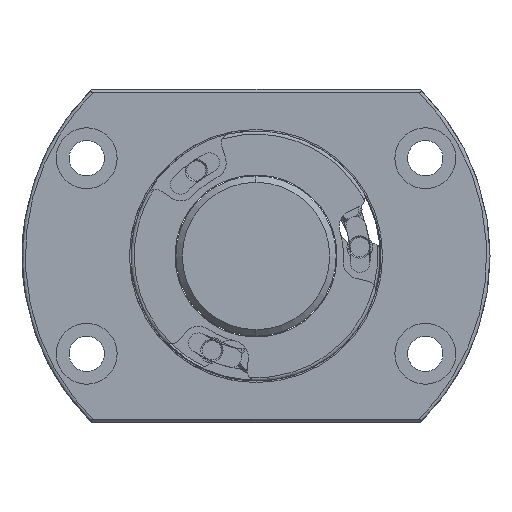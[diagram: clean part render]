
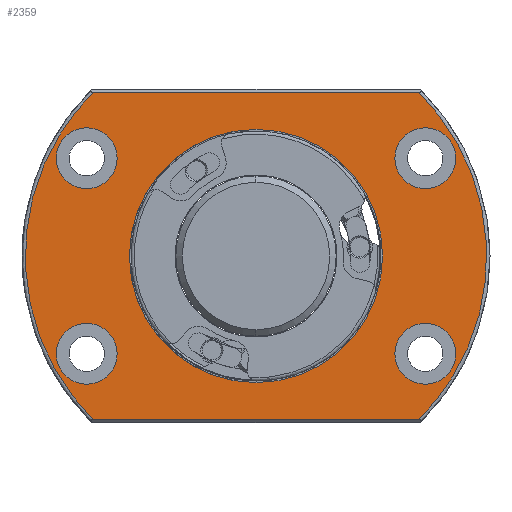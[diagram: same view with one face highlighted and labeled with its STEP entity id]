
A CAD part, left-side view. The second image highlights one B-rep face of the part: STEP entity #2359.
In plain terms, the highlighted planar face has unit normal (-1, 0, 0).
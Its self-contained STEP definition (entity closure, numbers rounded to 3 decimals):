
#74 = EDGE_CURVE ( 'NONE', #7313, #2662, #2654, .T. ) ;
#124 = EDGE_CURVE ( 'NONE', #5215, #7070, #1779, .T. ) ;
#129 = EDGE_LOOP ( 'NONE', ( #6904, #6137 ) ) ;
#179 = EDGE_LOOP ( 'NONE', ( #5307, #3958 ) ) ;
#189 = AXIS2_PLACEMENT_3D ( 'NONE', #7198, #2239, #4092 ) ;
#190 = VERTEX_POINT ( 'NONE', #4994 ) ;
#200 = LINE ( 'NONE', #3746, #2045 ) ;
#265 = CARTESIAN_POINT ( 'NONE',  ( 0., 40.39, 10.573 ) ) ;
#405 = CARTESIAN_POINT ( 'NONE',  ( 0., -26.414, -15.25 ) ) ;
#505 = EDGE_CURVE ( 'NONE', #7940, #2307, #4324, .T. ) ;
#527 = ORIENTED_EDGE ( 'NONE', *, *, #5287, .F. ) ;
#534 = EDGE_CURVE ( 'NONE', #7070, #5215, #5986, .T. ) ;
#570 = CARTESIAN_POINT ( 'NONE',  ( 0., -40.39, -10.573 ) ) ;
#661 = CARTESIAN_POINT ( 'NONE',  ( 0., -26.414, 10.5 ) ) ;
#663 = AXIS2_PLACEMENT_3D ( 'NONE', #5148, #1396, #5774 ) ;
#682 = CARTESIAN_POINT ( 'NONE',  ( 0., 0., 19.75 ) ) ;
#684 = CIRCLE ( 'NONE', #7469, 19.75 ) ;
#886 = CARTESIAN_POINT ( 'NONE',  ( 0., 25.412, 25.5 ) ) ;
#1012 = CARTESIAN_POINT ( 'NONE',  ( 0., 25.412, 25.5 ) ) ;
#1099 =( BOUNDED_CURVE ( )  B_SPLINE_CURVE ( 3, ( #7747, #5920, #265, #886 ),
 .UNSPECIFIED., .F., .T. ) 
 B_SPLINE_CURVE_WITH_KNOTS ( ( 4, 4 ),
 ( 0., 1. ),
 .UNSPECIFIED. ) 
 CURVE ( )  GEOMETRIC_REPRESENTATION_ITEM ( )  RATIONAL_B_SPLINE_CURVE ( ( 1., 0.804, 0.804, 1. ) ) 
 REPRESENTATION_ITEM ( '' )  );
#1117 = DIRECTION ( 'NONE',  ( -1., 0., 0. ) ) ;
#1163 = EDGE_CURVE ( 'NONE', #8084, #7940, #7732, .T. ) ;
#1169 = CARTESIAN_POINT ( 'NONE',  ( 0., -40.39, 10.573 ) ) ;
#1221 = VERTEX_POINT ( 'NONE', #5000 ) ;
#1335 = DIRECTION ( 'NONE',  ( 0., 0., 1. ) ) ;
#1374 = CARTESIAN_POINT ( 'NONE',  ( 0., 25.412, -25.5 ) ) ;
#1396 = DIRECTION ( 'NONE',  ( 1., 0., 0. ) ) ;
#1451 = ORIENTED_EDGE ( 'NONE', *, *, #8046, .T. ) ;
#1499 = CARTESIAN_POINT ( 'NONE',  ( 0., 0., 0. ) ) ;
#1555 = CARTESIAN_POINT ( 'NONE',  ( 0., -26.414, 15.25 ) ) ;
#1583 = ORIENTED_EDGE ( 'NONE', *, *, #1163, .F. ) ;
#1584 = DIRECTION ( 'NONE',  ( 1., 0., 0. ) ) ;
#1647 = DIRECTION ( 'NONE',  ( 0., 0., 1. ) ) ;
#1779 = CIRCLE ( 'NONE', #3870, 4.75 ) ;
#1859 = CIRCLE ( 'NONE', #7147, 4.75 ) ;
#1915 = ORIENTED_EDGE ( 'NONE', *, *, #5372, .T. ) ;
#2045 = VECTOR ( 'NONE', #3130, 1000. ) ;
#2063 = FACE_BOUND ( 'NONE', #129, .T. ) ;
#2160 = AXIS2_PLACEMENT_3D ( 'NONE', #1499, #3937, #4562 ) ;
#2183 = EDGE_CURVE ( 'NONE', #2307, #3557, #1099, .T. ) ;
#2229 = DIRECTION ( 'NONE',  ( 0., 0., 1. ) ) ;
#2239 = DIRECTION ( 'NONE',  ( 1., 0., 0. ) ) ;
#2307 = VERTEX_POINT ( 'NONE', #1374 ) ;
#2356 = CARTESIAN_POINT ( 'NONE',  ( 0., 26.414, 15.25 ) ) ;
#2359 = ADVANCED_FACE ( 'NONE', ( #6095, #5803, #2751, #2063, #7832, #4718 ), #3993, .F. ) ;
#2408 = DIRECTION ( 'NONE',  ( 0., 0., 1. ) ) ;
#2654 = CIRCLE ( 'NONE', #6806, 19.75 ) ;
#2662 = VERTEX_POINT ( 'NONE', #682 ) ;
#2693 = CARTESIAN_POINT ( 'NONE',  ( 0., 0., -25.5 ) ) ;
#2751 = FACE_BOUND ( 'NONE', #5599, .T. ) ;
#2809 = ORIENTED_EDGE ( 'NONE', *, *, #2183, .F. ) ;
#2843 = VERTEX_POINT ( 'NONE', #6492 ) ;
#2941 = EDGE_CURVE ( 'NONE', #2843, #4026, #3649, .T. ) ;
#2965 = DIRECTION ( 'NONE',  ( 1., 0., 0. ) ) ;
#2987 = DIRECTION ( 'NONE',  ( 1., 0., 0. ) ) ;
#3018 = AXIS2_PLACEMENT_3D ( 'NONE', #6776, #2965, #7951 ) ;
#3130 = DIRECTION ( 'NONE',  ( 0., -1., 0. ) ) ;
#3159 = CARTESIAN_POINT ( 'NONE',  ( 0., 26.414, -15.25 ) ) ;
#3171 = CIRCLE ( 'NONE', #189, 4.75 ) ;
#3557 = VERTEX_POINT ( 'NONE', #1012 ) ;
#3649 = CIRCLE ( 'NONE', #6743, 4.75 ) ;
#3678 = EDGE_LOOP ( 'NONE', ( #4343, #1915 ) ) ;
#3679 = EDGE_CURVE ( 'NONE', #3557, #8084, #200, .T. ) ;
#3746 = CARTESIAN_POINT ( 'NONE',  ( 0., 0., 25.5 ) ) ;
#3870 = AXIS2_PLACEMENT_3D ( 'NONE', #1555, #1584, #7212 ) ;
#3904 = CARTESIAN_POINT ( 'NONE',  ( 0., -26.414, -20. ) ) ;
#3937 = DIRECTION ( 'NONE',  ( 1., 0., 0. ) ) ;
#3958 = ORIENTED_EDGE ( 'NONE', *, *, #2941, .T. ) ;
#3993 = PLANE ( 'NONE',  #2160 ) ;
#4026 = VERTEX_POINT ( 'NONE', #6684 ) ;
#4092 = DIRECTION ( 'NONE',  ( 0., 0., 1. ) ) ;
#4312 = CARTESIAN_POINT ( 'NONE',  ( 0., 0., 0. ) ) ;
#4324 = LINE ( 'NONE', #2693, #5513 ) ;
#4343 = ORIENTED_EDGE ( 'NONE', *, *, #4614, .T. ) ;
#4436 = EDGE_LOOP ( 'NONE', ( #527, #5079 ) ) ;
#4562 = DIRECTION ( 'NONE',  ( 0., 0., -1. ) ) ;
#4614 = EDGE_CURVE ( 'NONE', #190, #7687, #1859, .T. ) ;
#4659 = VERTEX_POINT ( 'NONE', #5398 ) ;
#4718 = FACE_BOUND ( 'NONE', #4436, .T. ) ;
#4920 = AXIS2_PLACEMENT_3D ( 'NONE', #4942, #6177, #2408 ) ;
#4942 = CARTESIAN_POINT ( 'NONE',  ( 0., 26.414, 15.25 ) ) ;
#4994 = CARTESIAN_POINT ( 'NONE',  ( 0., -26.414, -10.5 ) ) ;
#5000 = CARTESIAN_POINT ( 'NONE',  ( 0., 26.414, 10.5 ) ) ;
#5079 = ORIENTED_EDGE ( 'NONE', *, *, #74, .F. ) ;
#5148 = CARTESIAN_POINT ( 'NONE',  ( 0., -26.414, 15.25 ) ) ;
#5215 = VERTEX_POINT ( 'NONE', #6010 ) ;
#5235 = CIRCLE ( 'NONE', #4920, 4.75 ) ;
#5282 = CARTESIAN_POINT ( 'NONE',  ( 0., 0., 0. ) ) ;
#5287 = EDGE_CURVE ( 'NONE', #2662, #7313, #684, .T. ) ;
#5307 = ORIENTED_EDGE ( 'NONE', *, *, #7907, .T. ) ;
#5372 = EDGE_CURVE ( 'NONE', #7687, #190, #6172, .T. ) ;
#5398 = CARTESIAN_POINT ( 'NONE',  ( 0., 26.414, 20. ) ) ;
#5513 = VECTOR ( 'NONE', #7615, 1000. ) ;
#5599 = EDGE_LOOP ( 'NONE', ( #7186, #1451 ) ) ;
#5774 = DIRECTION ( 'NONE',  ( 0., 0., 1. ) ) ;
#5803 = FACE_BOUND ( 'NONE', #179, .T. ) ;
#5806 = ORIENTED_EDGE ( 'NONE', *, *, #505, .F. ) ;
#5920 = CARTESIAN_POINT ( 'NONE',  ( 0., 40.39, -10.573 ) ) ;
#5986 = CIRCLE ( 'NONE', #663, 4.75 ) ;
#5998 = DIRECTION ( 'NONE',  ( 1., 0., 0. ) ) ;
#6010 = CARTESIAN_POINT ( 'NONE',  ( 0., -26.414, 20. ) ) ;
#6021 = CIRCLE ( 'NONE', #6470, 4.75 ) ;
#6095 = FACE_OUTER_BOUND ( 'NONE', #6521, .T. ) ;
#6137 = ORIENTED_EDGE ( 'NONE', *, *, #534, .T. ) ;
#6172 = CIRCLE ( 'NONE', #3018, 4.75 ) ;
#6177 = DIRECTION ( 'NONE',  ( 1., 0., 0. ) ) ;
#6312 = DIRECTION ( 'NONE',  ( 1., 0., 0. ) ) ;
#6470 = AXIS2_PLACEMENT_3D ( 'NONE', #2356, #2987, #7356 ) ;
#6492 = CARTESIAN_POINT ( 'NONE',  ( 0., 26.414, -20. ) ) ;
#6521 = EDGE_LOOP ( 'NONE', ( #7320, #2809, #5806, #1583 ) ) ;
#6581 = DIRECTION ( 'NONE',  ( -1., 0., 0. ) ) ;
#6684 = CARTESIAN_POINT ( 'NONE',  ( 0., 26.414, -10.5 ) ) ;
#6743 = AXIS2_PLACEMENT_3D ( 'NONE', #3159, #6312, #1335 ) ;
#6770 = CARTESIAN_POINT ( 'NONE',  ( 0., -25.412, 25.5 ) ) ;
#6776 = CARTESIAN_POINT ( 'NONE',  ( 0., -26.414, -15.25 ) ) ;
#6806 = AXIS2_PLACEMENT_3D ( 'NONE', #5282, #6581, #2229 ) ;
#6904 = ORIENTED_EDGE ( 'NONE', *, *, #124, .T. ) ;
#7070 = VERTEX_POINT ( 'NONE', #661 ) ;
#7131 = CARTESIAN_POINT ( 'NONE',  ( 0., 0., -19.75 ) ) ;
#7147 = AXIS2_PLACEMENT_3D ( 'NONE', #405, #5998, #1647 ) ;
#7186 = ORIENTED_EDGE ( 'NONE', *, *, #8045, .T. ) ;
#7198 = CARTESIAN_POINT ( 'NONE',  ( 0., 26.414, -15.25 ) ) ;
#7212 = DIRECTION ( 'NONE',  ( 0., 0., 1. ) ) ;
#7313 = VERTEX_POINT ( 'NONE', #7131 ) ;
#7320 = ORIENTED_EDGE ( 'NONE', *, *, #3679, .F. ) ;
#7356 = DIRECTION ( 'NONE',  ( 0., 0., 1. ) ) ;
#7382 = CARTESIAN_POINT ( 'NONE',  ( 0., -25.412, -25.5 ) ) ;
#7384 = CARTESIAN_POINT ( 'NONE',  ( 0., -25.412, 25.5 ) ) ;
#7387 = DIRECTION ( 'NONE',  ( 0., 0., 1. ) ) ;
#7469 = AXIS2_PLACEMENT_3D ( 'NONE', #4312, #1117, #7387 ) ;
#7615 = DIRECTION ( 'NONE',  ( 0., 1., 0. ) ) ;
#7687 = VERTEX_POINT ( 'NONE', #3904 ) ;
#7732 =( BOUNDED_CURVE ( )  B_SPLINE_CURVE ( 3, ( #6770, #1169, #570, #7382 ),
 .UNSPECIFIED., .F., .T. ) 
 B_SPLINE_CURVE_WITH_KNOTS ( ( 4, 4 ),
 ( 0., 1. ),
 .UNSPECIFIED. ) 
 CURVE ( )  GEOMETRIC_REPRESENTATION_ITEM ( )  RATIONAL_B_SPLINE_CURVE ( ( 1., 0.804, 0.804, 1. ) ) 
 REPRESENTATION_ITEM ( '' )  );
#7747 = CARTESIAN_POINT ( 'NONE',  ( 0., 25.412, -25.5 ) ) ;
#7832 = FACE_BOUND ( 'NONE', #3678, .T. ) ;
#7907 = EDGE_CURVE ( 'NONE', #4026, #2843, #3171, .T. ) ;
#7920 = CARTESIAN_POINT ( 'NONE',  ( 0., -25.412, -25.5 ) ) ;
#7940 = VERTEX_POINT ( 'NONE', #7920 ) ;
#7951 = DIRECTION ( 'NONE',  ( 0., 0., 1. ) ) ;
#8045 = EDGE_CURVE ( 'NONE', #4659, #1221, #5235, .T. ) ;
#8046 = EDGE_CURVE ( 'NONE', #1221, #4659, #6021, .T. ) ;
#8084 = VERTEX_POINT ( 'NONE', #7384 ) ;
